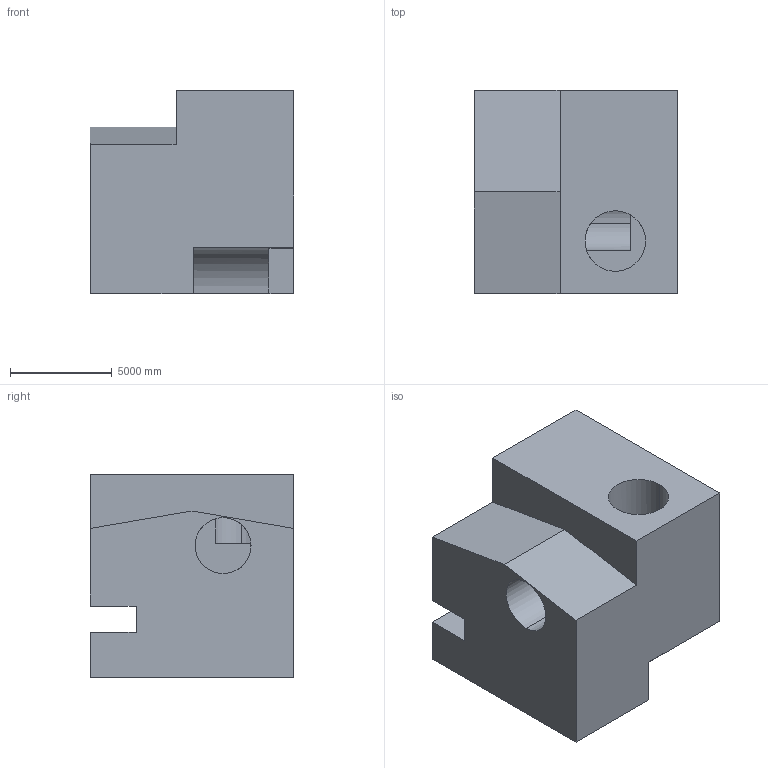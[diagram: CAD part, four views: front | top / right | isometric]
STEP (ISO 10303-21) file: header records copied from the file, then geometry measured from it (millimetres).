
FILE_DESCRIPTION (( 'STEP AP203' ), '1' );
FILE_NAME ('1523.STEP', '2022-08-18T15:01:59', ( 'user' ), ( '' ), 'SwSTEP 2.0', 'SolidWorks 2021', '' );
FILE_SCHEMA (( 'CONFIG_CONTROL_DESIGN' ));
Length unit declared in the file: centimetre
Products named in the file (1): 1523
Bounding box: 10000 x 10000 x 10000 mm (x, y, z)
Volume: 787158547668.2 mm3; surface area: 697016544.8 mm2
Topology: 1 solids, 1 shells, 24 faces, 66 edges, 44 vertices
Faces by surface type: plane 19, cylinder 5
Entity records: 1003 total; most frequent: CARTESIAN_POINT 302, ORIENTED_EDGE 132, DIRECTION 124, EDGE_CURVE 66, VECTOR 52, LINE 52, VERTEX_POINT 44, AXIS2_PLACEMENT_3D 36
